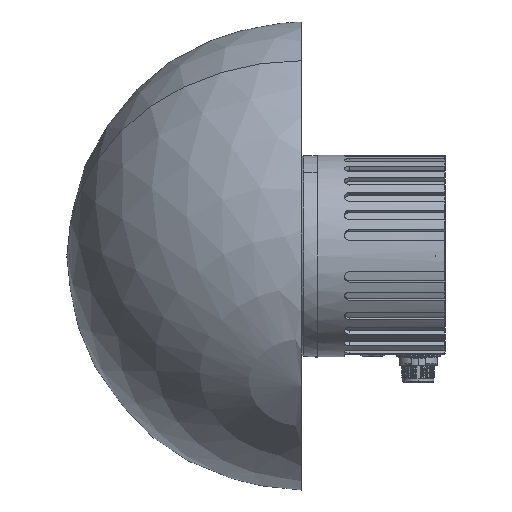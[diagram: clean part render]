
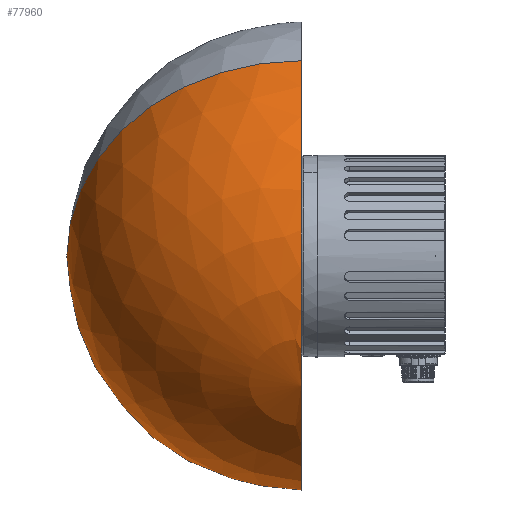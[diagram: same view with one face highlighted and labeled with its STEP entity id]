
A CAD part, left-side view. The second image highlights one B-rep face of the part: STEP entity #77960.
In plain terms, the highlighted spherical face has radius 69.858 mm.
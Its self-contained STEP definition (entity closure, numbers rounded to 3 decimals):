
#1521 = ORIENTED_EDGE ( 'NONE', *, *, #73415, .T. ) ;
#2779 = CARTESIAN_POINT ( 'NONE',  ( -69.858, 42.855, 0. ) ) ;
#9845 = EDGE_LOOP ( 'NONE', ( #21856, #1521, #80325 ) ) ;
#12187 = DIRECTION ( 'NONE',  ( 0., -1., 0. ) ) ;
#14086 = AXIS2_PLACEMENT_3D ( 'NONE', #14830, #33113, #57855 ) ;
#14830 = CARTESIAN_POINT ( 'NONE',  ( 0., 42.855, 0. ) ) ;
#19056 = FACE_OUTER_BOUND ( 'NONE', #9845, .T. ) ;
#20006 = EDGE_CURVE ( 'NONE', #36339, #64401, #55351, .T. ) ;
#20300 = AXIS2_PLACEMENT_3D ( 'NONE', #42440, #24578, #29454 ) ;
#21556 = CARTESIAN_POINT ( 'NONE',  ( 69.858, 42.855, 0. ) ) ;
#21856 = ORIENTED_EDGE ( 'NONE', *, *, #20006, .F. ) ;
#24578 = DIRECTION ( 'NONE',  ( 0., 1., 0. ) ) ;
#29454 = DIRECTION ( 'NONE',  ( -1., 0., 0. ) ) ;
#33113 = DIRECTION ( 'NONE',  ( 0., 0., -1. ) ) ;
#34373 = EDGE_CURVE ( 'NONE', #64401, #53396, #77963, .T. ) ;
#36339 = VERTEX_POINT ( 'NONE', #2779 ) ;
#42440 = CARTESIAN_POINT ( 'NONE',  ( 0., 42.855, 0. ) ) ;
#43467 = CARTESIAN_POINT ( 'NONE',  ( 0., 42.855, 0. ) ) ;
#49978 = DIRECTION ( 'NONE',  ( 0., 0., 1. ) ) ;
#53396 = VERTEX_POINT ( 'NONE', #56929 ) ;
#54277 = CIRCLE ( 'NONE', #14086, 69.858 ) ;
#55351 = CIRCLE ( 'NONE', #20300, 69.858 ) ;
#56929 = CARTESIAN_POINT ( 'NONE',  ( 0., 112.713, 0. ) ) ;
#57169 = DIRECTION ( 'NONE',  ( 0., 0., -1. ) ) ;
#57855 = DIRECTION ( 'NONE',  ( -1., 0., 0. ) ) ;
#57955 = DIRECTION ( 'NONE',  ( 1., 0., 0. ) ) ;
#62416 = AXIS2_PLACEMENT_3D ( 'NONE', #43467, #49978, #12187 ) ;
#64401 = VERTEX_POINT ( 'NONE', #21556 ) ;
#68659 = AXIS2_PLACEMENT_3D ( 'NONE', #69389, #57169, #57955 ) ;
#69389 = CARTESIAN_POINT ( 'NONE',  ( 0., 42.855, 0. ) ) ;
#73415 = EDGE_CURVE ( 'NONE', #36339, #53396, #54277, .T. ) ;
#76635 = SPHERICAL_SURFACE ( 'NONE', #68659, 69.858 ) ;
#77960 = ADVANCED_FACE ( 'NONE', ( #19056 ), #76635, .F. ) ;
#77963 = CIRCLE ( 'NONE', #62416, 69.858 ) ;
#80325 = ORIENTED_EDGE ( 'NONE', *, *, #34373, .F. ) ;
